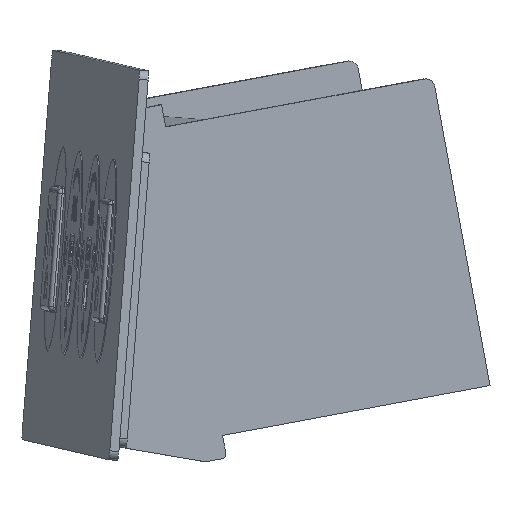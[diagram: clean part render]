
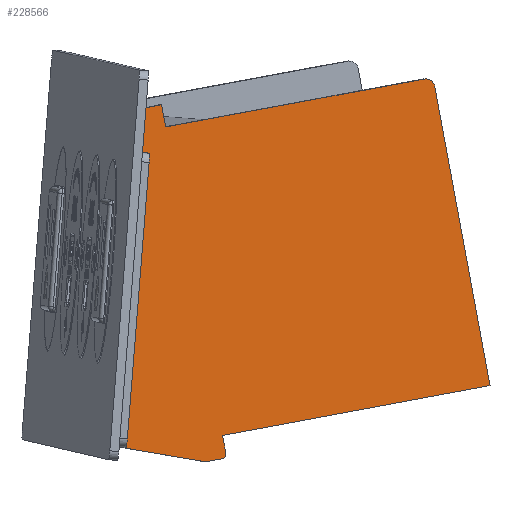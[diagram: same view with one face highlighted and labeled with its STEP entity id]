
A CAD part, left-side view. The second image highlights one B-rep face of the part: STEP entity #228566.
In plain terms, the highlighted planar face has unit normal (-0.997, -0.07, -0.016).
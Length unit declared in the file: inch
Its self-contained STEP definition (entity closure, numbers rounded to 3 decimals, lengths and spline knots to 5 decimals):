
#226714=CARTESIAN_POINT('',(-4.28952,-0.76054,-3.69396));
#226715=VERTEX_POINT('',#226714);
#226748=CARTESIAN_POINT('',(-4.31704,-0.96162,-1.14296));
#226749=VERTEX_POINT('',#226748);
#226756=CARTESIAN_POINT('',(-4.32103,-0.99079,-0.77295));
#226757=VERTEX_POINT('',#226756);
#226758=CARTESIAN_POINT('',(-4.31704,-0.96162,-1.14296));
#226759=DIRECTION('',(-0.011,-0.079,0.997));
#226760=VECTOR('',#226759,0.37118);
#226761=LINE('',#226758,#226760);
#226762=EDGE_CURVE('',#226749,#226757,#226761,.T.);
#228072=CARTESIAN_POINT('',(-4.31145,-1.03993,-1.14907));
#228073=VERTEX_POINT('',#228072);
#228074=CARTESIAN_POINT('',(-4.28392,-0.83885,-3.70007));
#228075=VERTEX_POINT('',#228074);
#228076=CARTESIAN_POINT('',(-4.31145,-1.03993,-1.14907));
#228077=DIRECTION('',(0.011,0.079,-0.997));
#228078=VECTOR('',#228077,2.55906);
#228079=LINE('',#228076,#228078);
#228080=EDGE_CURVE('',#228073,#228075,#228079,.T.);
#228130=CARTESIAN_POINT('',(-4.31704,-0.96162,-1.14296));
#228131=DIRECTION('',(0.071,-0.994,-0.078));
#228132=VECTOR('',#228131,0.07874);
#228133=LINE('',#228130,#228132);
#228134=EDGE_CURVE('',#226749,#228073,#228133,.T.);
#228152=CARTESIAN_POINT('',(-4.28392,-0.83885,-3.70007));
#228153=DIRECTION('',(-0.071,0.994,0.078));
#228154=VECTOR('',#228153,0.07874);
#228155=LINE('',#228152,#228154);
#228156=EDGE_CURVE('',#228075,#226715,#228155,.T.);
#228315=CARTESIAN_POINT('',(-4.30328,-1.20774,-0.92746));
#228316=VERTEX_POINT('',#228315);
#228317=CARTESIAN_POINT('',(-4.15274,-3.44823,-0.51244));
#228318=VERTEX_POINT('',#228317);
#228319=CARTESIAN_POINT('',(-4.30328,-1.20774,-0.92746));
#228320=DIRECTION('',(0.066,-0.981,0.182));
#228321=VECTOR('',#228320,2.28357);
#228322=LINE('',#228319,#228321);
#228323=EDGE_CURVE('',#228316,#228318,#228322,.T.);
#228346=CARTESIAN_POINT('',(-4.1453,-3.53965,-0.57545));
#228347=VERTEX_POINT('',#228346);
#228348=CARTESIAN_POINT('',(-4.15048,-3.46242,-0.58986));
#228349=DIRECTION('',(0.997,0.07,0.016));
#228350=DIRECTION('',(0.066,-0.981,0.183));
#228351=AXIS2_PLACEMENT_3D('',#228348,#228349,#228350);
#228352=CIRCLE('',#228351,0.07874);
#228353=EDGE_CURVE('',#228318,#228347,#228352,.T.);
#228371=CARTESIAN_POINT('',(-4.06936,-4.01839,-3.16843));
#228372=VERTEX_POINT('',#228371);
#228373=CARTESIAN_POINT('',(-4.1453,-3.53965,-0.57545));
#228374=DIRECTION('',(0.029,-0.181,-0.983));
#228375=VECTOR('',#228374,2.6379);
#228376=LINE('',#228373,#228375);
#228377=EDGE_CURVE('',#228347,#228372,#228376,.T.);
#228395=CARTESIAN_POINT('',(-4.22499,-1.7013,-3.60079));
#228396=VERTEX_POINT('',#228395);
#228397=CARTESIAN_POINT('',(-4.06936,-4.01839,-3.16843));
#228398=DIRECTION('',(-0.066,0.981,-0.183));
#228399=VECTOR('',#228398,2.3622);
#228400=LINE('',#228397,#228399);
#228401=EDGE_CURVE('',#228372,#228396,#228400,.T.);
#228419=CARTESIAN_POINT('',(-4.22045,-1.72988,-3.75559));
#228420=VERTEX_POINT('',#228419);
#228421=CARTESIAN_POINT('',(-4.22499,-1.7013,-3.60079));
#228422=DIRECTION('',(0.029,-0.181,-0.983));
#228423=VECTOR('',#228422,0.15748);
#228424=LINE('',#228421,#228423);
#228425=EDGE_CURVE('',#228396,#228420,#228424,.T.);
#228443=CARTESIAN_POINT('',(-4.22191,-1.69841,-3.80149));
#228444=VERTEX_POINT('',#228443);
#228445=CARTESIAN_POINT('',(-4.22305,-1.69127,-3.76279));
#228446=DIRECTION('',(0.997,0.07,0.016));
#228447=DIRECTION('',(0.029,-0.181,-0.983));
#228448=AXIS2_PLACEMENT_3D('',#228445,#228446,#228447);
#228449=CIRCLE('',#228448,0.03937);
#228450=EDGE_CURVE('',#228420,#228444,#228449,.T.);
#228468=CARTESIAN_POINT('',(-4.23192,-1.54951,-3.82928));
#228469=VERTEX_POINT('',#228468);
#228470=CARTESIAN_POINT('',(-4.22191,-1.69841,-3.80149));
#228471=DIRECTION('',(-0.066,0.981,-0.183));
#228472=VECTOR('',#228471,0.15181);
#228473=LINE('',#228470,#228472);
#228474=EDGE_CURVE('',#228444,#228469,#228473,.T.);
#228492=CARTESIAN_POINT('',(-4.23192,-1.54951,-3.82928));
#228493=DIRECTION('',(-0.072,0.983,0.169));
#228494=VECTOR('',#228493,0.80255);
#228495=LINE('',#228492,#228494);
#228496=EDGE_CURVE('',#228469,#226715,#228495,.T.);
#228509=CARTESIAN_POINT('',(-4.30895,-1.17201,-0.73396));
#228510=VERTEX_POINT('',#228509);
#228511=CARTESIAN_POINT('',(-4.32103,-0.99079,-0.77295));
#228512=DIRECTION('',(0.065,-0.976,0.21));
#228513=VECTOR('',#228512,0.18576);
#228514=LINE('',#228511,#228513);
#228515=EDGE_CURVE('',#226757,#228510,#228514,.T.);
#228533=CARTESIAN_POINT('',(-4.30895,-1.17201,-0.73396));
#228534=DIRECTION('',(0.029,-0.181,-0.983));
#228535=VECTOR('',#228534,0.19685);
#228536=LINE('',#228533,#228535);
#228537=EDGE_CURVE('',#228510,#228316,#228536,.T.);
#228545=CARTESIAN_POINT('',(-4.20814,-2.27212,-2.1778));
#228546=DIRECTION('',(-0.997,-0.07,-0.016));
#228547=DIRECTION('',(-0.029,0.181,0.983));
#228548=AXIS2_PLACEMENT_3D('',#228545,#228546,#228547);
#228549=PLANE('',#228548);
#228550=ORIENTED_EDGE('',*,*,#228156,.T.);
#228551=ORIENTED_EDGE('',*,*,#228496,.F.);
#228552=ORIENTED_EDGE('',*,*,#228474,.F.);
#228553=ORIENTED_EDGE('',*,*,#228450,.F.);
#228554=ORIENTED_EDGE('',*,*,#228425,.F.);
#228555=ORIENTED_EDGE('',*,*,#228401,.F.);
#228556=ORIENTED_EDGE('',*,*,#228377,.F.);
#228557=ORIENTED_EDGE('',*,*,#228353,.F.);
#228558=ORIENTED_EDGE('',*,*,#228323,.F.);
#228559=ORIENTED_EDGE('',*,*,#228537,.F.);
#228560=ORIENTED_EDGE('',*,*,#228515,.F.);
#228561=ORIENTED_EDGE('',*,*,#226762,.F.);
#228562=ORIENTED_EDGE('',*,*,#228134,.T.);
#228563=ORIENTED_EDGE('',*,*,#228080,.T.);
#228564=EDGE_LOOP('',(#228550,#228551,#228552,#228553,#228554,#228555,#228556,#228557,#228558,#228559,#228560,#228561,#228562,#228563));
#228565=FACE_OUTER_BOUND('',#228564,.T.);
#228566=ADVANCED_FACE('',(#228565),#228549,.T.);
